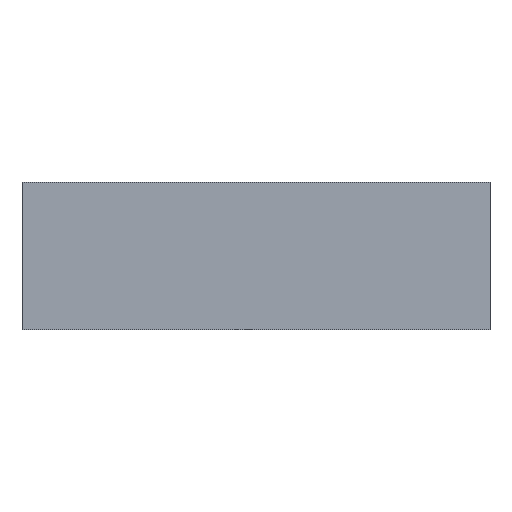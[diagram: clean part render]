
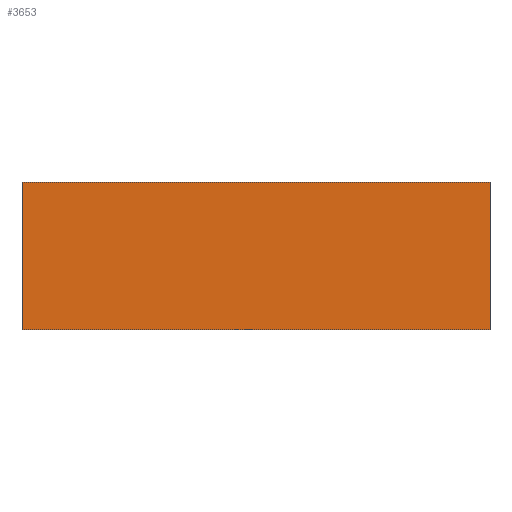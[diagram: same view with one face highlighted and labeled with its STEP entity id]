
A CAD part, front view. The second image highlights one B-rep face of the part: STEP entity #3653.
In plain terms, the highlighted planar face has unit normal (0, -1, 0).
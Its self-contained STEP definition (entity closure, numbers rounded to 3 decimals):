
#22 = VERTEX_POINT('',#23);
#23 = CARTESIAN_POINT('',(0.,0.,60.));
#32 = PLANE('',#33);
#33 = AXIS2_PLACEMENT_3D('',#34,#35,#36);
#34 = CARTESIAN_POINT('',(0.,0.,0.));
#35 = DIRECTION('',(1.,0.,0.));
#36 = DIRECTION('',(0.,0.,1.));
#44 = PLANE('',#45);
#45 = AXIS2_PLACEMENT_3D('',#46,#47,#48);
#46 = CARTESIAN_POINT('',(0.,0.,60.));
#47 = DIRECTION('',(0.,0.,1.));
#48 = DIRECTION('',(1.,0.,0.));
#56 = EDGE_CURVE('',#57,#22,#59,.T.);
#57 = VERTEX_POINT('',#58);
#58 = CARTESIAN_POINT('',(0.,0.,0.));
#59 = SURFACE_CURVE('',#60,(#64,#71),.PCURVE_S1.);
#60 = LINE('',#61,#62);
#61 = CARTESIAN_POINT('',(0.,0.,0.));
#62 = VECTOR('',#63,1.);
#63 = DIRECTION('',(0.,0.,1.));
#64 = PCURVE('',#32,#65);
#65 = DEFINITIONAL_REPRESENTATION('',(#66),#70);
#66 = LINE('',#67,#68);
#67 = CARTESIAN_POINT('',(0.,0.));
#68 = VECTOR('',#69,1.);
#69 = DIRECTION('',(1.,0.));
#70 = ( GEOMETRIC_REPRESENTATION_CONTEXT(2) 
PARAMETRIC_REPRESENTATION_CONTEXT() REPRESENTATION_CONTEXT('2D SPACE',''
  ) );
#71 = PCURVE('',#72,#77);
#72 = PLANE('',#73);
#73 = AXIS2_PLACEMENT_3D('',#74,#75,#76);
#74 = CARTESIAN_POINT('',(0.,0.,0.));
#75 = DIRECTION('',(0.,1.,0.));
#76 = DIRECTION('',(0.,0.,1.));
#77 = DEFINITIONAL_REPRESENTATION('',(#78),#82);
#78 = LINE('',#79,#80);
#79 = CARTESIAN_POINT('',(0.,0.));
#80 = VECTOR('',#81,1.);
#81 = DIRECTION('',(1.,0.));
#82 = ( GEOMETRIC_REPRESENTATION_CONTEXT(2) 
PARAMETRIC_REPRESENTATION_CONTEXT() REPRESENTATION_CONTEXT('2D SPACE',''
  ) );
#100 = PLANE('',#101);
#101 = AXIS2_PLACEMENT_3D('',#102,#103,#104);
#102 = CARTESIAN_POINT('',(0.,0.,0.));
#103 = DIRECTION('',(0.,0.,1.));
#104 = DIRECTION('',(1.,0.,0.));
#248 = EDGE_CURVE('',#22,#249,#251,.T.);
#249 = VERTEX_POINT('',#250);
#250 = CARTESIAN_POINT('',(190.,0.,60.));
#251 = SURFACE_CURVE('',#252,(#256,#263),.PCURVE_S1.);
#252 = LINE('',#253,#254);
#253 = CARTESIAN_POINT('',(0.,0.,60.));
#254 = VECTOR('',#255,1.);
#255 = DIRECTION('',(1.,0.,0.));
#256 = PCURVE('',#44,#257);
#257 = DEFINITIONAL_REPRESENTATION('',(#258),#262);
#258 = LINE('',#259,#260);
#259 = CARTESIAN_POINT('',(0.,0.));
#260 = VECTOR('',#261,1.);
#261 = DIRECTION('',(1.,0.));
#262 = ( GEOMETRIC_REPRESENTATION_CONTEXT(2) 
PARAMETRIC_REPRESENTATION_CONTEXT() REPRESENTATION_CONTEXT('2D SPACE',''
  ) );
#263 = PCURVE('',#72,#264);
#264 = DEFINITIONAL_REPRESENTATION('',(#265),#269);
#265 = LINE('',#266,#267);
#266 = CARTESIAN_POINT('',(60.,0.));
#267 = VECTOR('',#268,1.);
#268 = DIRECTION('',(0.,1.));
#269 = ( GEOMETRIC_REPRESENTATION_CONTEXT(2) 
PARAMETRIC_REPRESENTATION_CONTEXT() REPRESENTATION_CONTEXT('2D SPACE',''
  ) );
#287 = PLANE('',#288);
#288 = AXIS2_PLACEMENT_3D('',#289,#290,#291);
#289 = CARTESIAN_POINT('',(190.,0.,0.));
#290 = DIRECTION('',(1.,0.,0.));
#291 = DIRECTION('',(0.,0.,1.));
#1617 = EDGE_CURVE('',#57,#1618,#1620,.T.);
#1618 = VERTEX_POINT('',#1619);
#1619 = CARTESIAN_POINT('',(190.,0.,0.));
#1620 = SURFACE_CURVE('',#1621,(#1625,#1632),.PCURVE_S1.);
#1621 = LINE('',#1622,#1623);
#1622 = CARTESIAN_POINT('',(0.,0.,0.));
#1623 = VECTOR('',#1624,1.);
#1624 = DIRECTION('',(1.,0.,0.));
#1625 = PCURVE('',#100,#1626);
#1626 = DEFINITIONAL_REPRESENTATION('',(#1627),#1631);
#1627 = LINE('',#1628,#1629);
#1628 = CARTESIAN_POINT('',(0.,0.));
#1629 = VECTOR('',#1630,1.);
#1630 = DIRECTION('',(1.,0.));
#1631 = ( GEOMETRIC_REPRESENTATION_CONTEXT(2) 
PARAMETRIC_REPRESENTATION_CONTEXT() REPRESENTATION_CONTEXT('2D SPACE',''
  ) );
#1632 = PCURVE('',#72,#1633);
#1633 = DEFINITIONAL_REPRESENTATION('',(#1634),#1638);
#1634 = LINE('',#1635,#1636);
#1635 = CARTESIAN_POINT('',(0.,0.));
#1636 = VECTOR('',#1637,1.);
#1637 = DIRECTION('',(0.,1.));
#1638 = ( GEOMETRIC_REPRESENTATION_CONTEXT(2) 
PARAMETRIC_REPRESENTATION_CONTEXT() REPRESENTATION_CONTEXT('2D SPACE',''
  ) );
#3653 = ADVANCED_FACE('',(#3654),#72,.F.);
#3654 = FACE_BOUND('',#3655,.F.);
#3655 = EDGE_LOOP('',(#3656,#3657,#3658,#3659));
#3656 = ORIENTED_EDGE('',*,*,#1617,.F.);
#3657 = ORIENTED_EDGE('',*,*,#56,.T.);
#3658 = ORIENTED_EDGE('',*,*,#248,.T.);
#3659 = ORIENTED_EDGE('',*,*,#3660,.F.);
#3660 = EDGE_CURVE('',#1618,#249,#3661,.T.);
#3661 = SURFACE_CURVE('',#3662,(#3666,#3673),.PCURVE_S1.);
#3662 = LINE('',#3663,#3664);
#3663 = CARTESIAN_POINT('',(190.,0.,0.));
#3664 = VECTOR('',#3665,1.);
#3665 = DIRECTION('',(0.,0.,1.));
#3666 = PCURVE('',#72,#3667);
#3667 = DEFINITIONAL_REPRESENTATION('',(#3668),#3672);
#3668 = LINE('',#3669,#3670);
#3669 = CARTESIAN_POINT('',(0.,190.));
#3670 = VECTOR('',#3671,1.);
#3671 = DIRECTION('',(1.,0.));
#3672 = ( GEOMETRIC_REPRESENTATION_CONTEXT(2) 
PARAMETRIC_REPRESENTATION_CONTEXT() REPRESENTATION_CONTEXT('2D SPACE',''
  ) );
#3673 = PCURVE('',#287,#3674);
#3674 = DEFINITIONAL_REPRESENTATION('',(#3675),#3679);
#3675 = LINE('',#3676,#3677);
#3676 = CARTESIAN_POINT('',(0.,0.));
#3677 = VECTOR('',#3678,1.);
#3678 = DIRECTION('',(1.,0.));
#3679 = ( GEOMETRIC_REPRESENTATION_CONTEXT(2) 
PARAMETRIC_REPRESENTATION_CONTEXT() REPRESENTATION_CONTEXT('2D SPACE',''
  ) );
